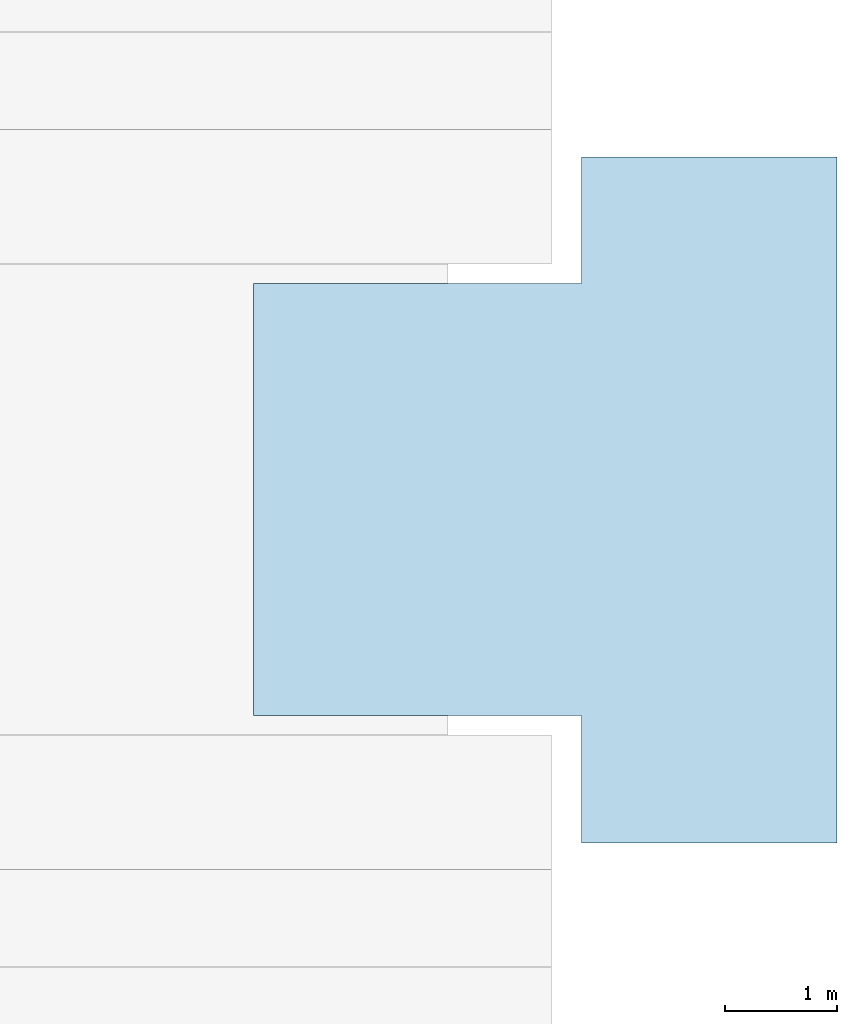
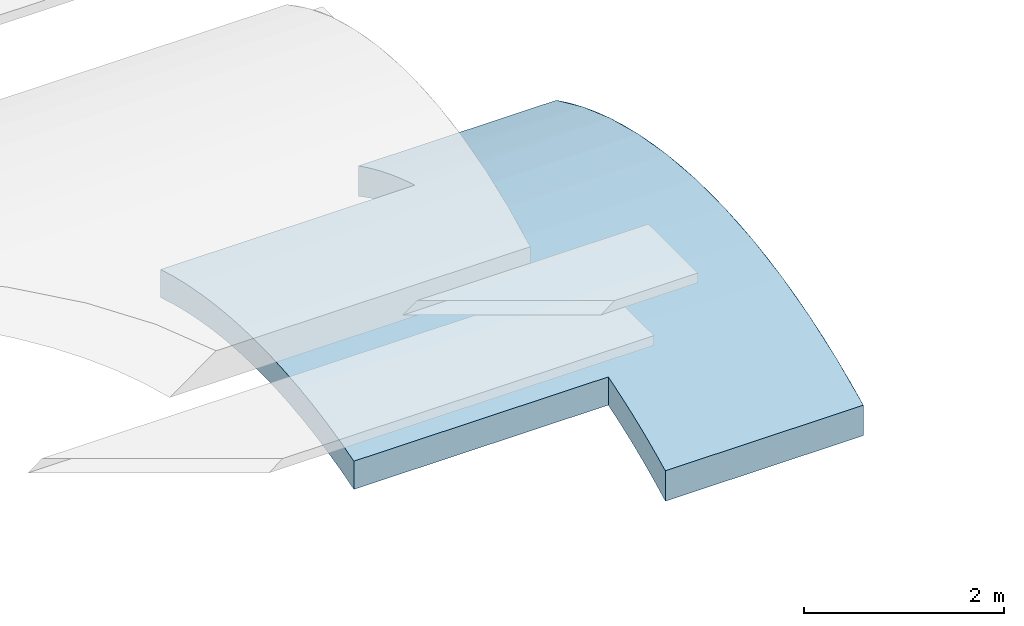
# One storey, part 5 of 5: 1 roof.
"""IFC2X3 building model written with IfcOpenShell, lengths in metres."""

import ifcopenshell
import ifcopenshell.guid

model = None  # the IFC model being written
_history = None  # IfcOwnerHistory: only IFC2X3 demands one
_inside = {}  # id of a spatial element -> (the spatial element, [elements in it])
_under = {}  # id of a project, library or spatial element -> (it, [spatial elements below it])
_declared = {}  # id of a project -> (the project, [libraries it declares])
_typed = {}  # id of a type object -> (the type object, [elements of that type])
_made_of = {}  # id of a material, layer set ... -> (it, [elements and type objects made of it])


def new_model(schema):
    """Start an empty IFC model of exactly this schema.

    Asked for "IFC4X3", IfcOpenShell would pick the latest addendum, in which some entities
    have other attributes; the version numbers below select the first issue.
    IFC2X3 requires an IfcOwnerHistory on every rooted entity: one is made here for all.
    """
    global model, _history
    if schema == "IFC4X3":
        model = ifcopenshell.file(schema_version=(4, 3, 0, 0))
    else:
        model = ifcopenshell.file(schema=schema)
    _inside.clear()
    _under.clear()
    _declared.clear()
    _typed.clear()
    _made_of.clear()
    _history = None
    if model.schema == "IFC2X3":
        org = make("IfcOrganization", Name="unknown")
        user = make(
            "IfcPersonAndOrganization",
            ThePerson=make("IfcPerson", FamilyName="unknown"),
            TheOrganization=org,
        )
        app = make(
            "IfcApplication",
            ApplicationDeveloper=org,
            Version="unknown",
            ApplicationFullName="unknown",
            ApplicationIdentifier="unknown",
        )
        _history = make(
            "IfcOwnerHistory",
            OwningUser=user,
            OwningApplication=app,
            ChangeAction="ADDED",
            CreationDate=0,
        )
    return model


def make(cls, **values):
    """One entity of the class cls with the attributes given. An attribute that is None is left unset."""
    return model.create_entity(
        cls, **{name: value for name, value in values.items() if value is not None}
    )


def entity(cls, *values):
    """Any entity or typed value of the class cls, its attributes in the order of the schema. None: left unset."""
    e = model.create_entity(cls)
    for i, value in enumerate(values):
        if value is not None:
            e[i] = value
    return e


def rooted(cls, **values):
    """An entity with a GlobalId (a new one), such as an element, a storey or a relation."""
    return make(cls, GlobalId=ifcopenshell.guid.new(), OwnerHistory=_history, **values)


def si_unit(unit_type, name, prefix=None):
    """IfcSIUnit, for example si_unit("LENGTHUNIT", "METRE", prefix="MILLI")."""
    return make("IfcSIUnit", UnitType=unit_type, Prefix=prefix, Name=name)


def converted_unit(unit_type, name, factor, base, dimensions=None, offset=None):
    """IfcConversionBasedUnit, such as the inch: factor (a typed value) times the base unit."""
    return make(
        "IfcConversionBasedUnit"
        if offset is None
        else "IfcConversionBasedUnitWithOffset",
        ConversionOffset=offset,
        Dimensions=None
        if dimensions is None
        else entity("IfcDimensionalExponents", *dimensions),
        UnitType=unit_type,
        Name=name,
        ConversionFactor=make(
            "IfcMeasureWithUnit", ValueComponent=factor, UnitComponent=base
        ),
    )


def assignment(units):
    """IfcUnitAssignment: the units of a project."""
    return None if units is None else make("IfcUnitAssignment", Units=units)


def point(xyz):
    """IfcCartesianPoint."""
    return None if xyz is None else make("IfcCartesianPoint", Coordinates=xyz)


def direction(xyz):
    """IfcDirection."""
    return None if xyz is None else make("IfcDirection", DirectionRatios=xyz)


def frame(location, z_axis=None, x_axis=None):
    """IfcAxis2Placement3D, a coordinate frame: its origin and axes. An axis left out is left unset."""
    return make(
        "IfcAxis2Placement3D",
        Location=point(location),
        Axis=direction(z_axis),
        RefDirection=direction(x_axis),
    )


def origin():
    """The frame at (0, 0, 0) with its axes left unset."""
    return frame((0.0, 0.0, 0.0))


def place(relative_to, where):
    """IfcLocalPlacement: puts the frame where relative to a parent placement (None: the world)."""
    return make(
        "IfcLocalPlacement", PlacementRelTo=relative_to, RelativePlacement=where
    )


def context(
    kind, dimensions, precision=None, world=None, true_north=None, identifier=None
):
    """IfcGeometricRepresentationContext, for example the 3D "Model" context."""
    return make(
        "IfcGeometricRepresentationContext",
        ContextIdentifier=identifier,
        ContextType=kind,
        CoordinateSpaceDimension=dimensions,
        Precision=precision,
        WorldCoordinateSystem=world,
        TrueNorth=true_north,
    )


def project(units=None, contexts=None):
    """IfcProject with its units and contexts."""
    return rooted(
        "IfcProject",
        Name="project",
        RepresentationContexts=contexts,
        UnitsInContext=assignment(units),
    )


def spatial(cls, under=None, at=None, **own):
    """A site, building, storey or space (cls), placed at a placement, below another one or the project."""
    s = rooted(cls, ObjectPlacement=at, **own)
    if under is not None:
        _under.setdefault(under.id(), (under, []))[1].append(s)
    return s


def faces_of(points, faces, orient=None, outer=None):
    """IfcFace entities. A face is a list of loops; a loop is a list of indices into points, from 0.

    orient and outer hold one flag for each loop. By default every Orientation is true, the
    first loop of a face is its IfcFaceOuterBound and the others are IfcFaceBound.
    """
    made = []
    for i, loops in enumerate(faces):
        bounds = []
        for j, loop in enumerate(loops):
            is_outer = j == 0 if outer is None else outer[i][j]
            bounds.append(
                make(
                    "IfcFaceOuterBound" if is_outer else "IfcFaceBound",
                    Bound=make("IfcPolyLoop", Polygon=[points[k] for k in loop]),
                    Orientation=True if orient is None else orient[i][j],
                )
            )
        made.append(make("IfcFace", Bounds=bounds))
    return made


def face_set(faces, orient=None, outer=None):
    """The faces of one IfcConnectedFaceSet. surface_model builds it on its shared points."""
    return ("IfcConnectedFaceSet", faces, orient, outer)


def surface_model(cls, points, shells):
    """IfcFaceBasedSurfaceModel or IfcShellBasedSurfaceModel (cls): surfaces that need not close."""
    shared = [point(p) for p in points]
    made = [make(c, CfsFaces=faces_of(shared, fs, o, b)) for c, fs, o, b in shells]
    if cls == "IfcFaceBasedSurfaceModel":
        return make(cls, FbsmFaces=made)
    return make(cls, SbsmBoundary=made)


def shape(context_of_items, identifier, shape_type, items):
    """IfcShapeRepresentation: the items that make up one representation, for example the "Body"."""
    return make(
        "IfcShapeRepresentation",
        ContextOfItems=context_of_items,
        RepresentationIdentifier=identifier,
        RepresentationType=shape_type,
        Items=items,
    )


def material(Name=None, Category=None):
    """IfcMaterial."""
    return make("IfcMaterial", Name=Name, Category=Category)


def layer(
    of_material, thickness, ventilated=None, Name=None, Category=None, Priority=None
):
    """IfcMaterialLayer: one layer of a wall or slab, of a material (None: an air gap)."""
    return make(
        "IfcMaterialLayer",
        Material=of_material,
        LayerThickness=thickness,
        IsVentilated=ventilated,
        Name=Name,
        Category=Category,
        Priority=Priority,
    )


def layer_set(layers, Name=None):
    """IfcMaterialLayerSet."""
    return make("IfcMaterialLayerSet", MaterialLayers=layers, LayerSetName=Name)


def layer_usage(for_layer_set, set_direction, sense, offset, extent=None):
    """IfcMaterialLayerSetUsage: how a layer set lies in its element."""
    return make(
        "IfcMaterialLayerSetUsage",
        ForLayerSet=for_layer_set,
        LayerSetDirection=set_direction,
        DirectionSense=sense,
        OffsetFromReferenceLine=offset,
        ReferenceExtent=extent,
    )


def made_of(thing, what):
    """Note that an element or type object is made of a material, layer set ...; save() writes the relation."""
    if what is not None:
        _made_of.setdefault(what.id(), (what, []))[1].append(thing)
    return thing


def element(
    cls,
    number,
    at=None,
    inside=None,
    cuts=None,
    type_object=None,
    material=None,
    context=None,
    identifier="Body",
    shape_type=None,
    held_by="IfcProductDefinitionShape",
    body=None,
    shapes=None,
    **own,
):
    """One element of the class cls, such as IfcWall. Its Tag is "e" and its number.

    at: its placement. inside: the storey or other place that contains it. cuts: it is an
    opening in that element (IfcRelVoidsElement). A single representation is given by context,
    identifier, shape_type and body (its items); several are given by shapes. held_by: the class
    of the entity that holds the representations. save() writes the other relations.
    """
    e = rooted(cls, Tag="e%d" % number, ObjectPlacement=at, **own)
    if body is not None:
        shapes = [shape(context, identifier, shape_type, body)]
    if shapes is not None:
        e.Representation = make(held_by, Representations=shapes)
    if inside is not None:
        _inside.setdefault(inside.id(), (inside, []))[1].append(e)
    if cuts is not None:
        rooted(
            "IfcRelVoidsElement", RelatingBuildingElement=cuts, RelatedOpeningElement=e
        )
    if type_object is not None:
        _typed.setdefault(type_object.id(), (type_object, []))[1].append(e)
    return made_of(e, material)


def aggregate(whole, parts):
    """IfcRelAggregates: a whole, such as a stair, and the parts it consists of."""
    return rooted("IfcRelAggregates", RelatingObject=whole, RelatedObjects=parts)


def save(model, path):
    """Write the relations noted so far, then the file.

    IfcRelAggregates (storeys below a building ...), IfcRelContainedInSpatialStructure (elements
    in a storey), IfcRelDefinesByType, IfcRelAssociatesMaterial and IfcRelDeclares: one each for
    every whole, place, type object, material and project.
    """
    for whole, parts in _under.values():
        aggregate(whole, parts)
    for where, things in _inside.values():
        rooted(
            "IfcRelContainedInSpatialStructure",
            RelatedElements=things,
            RelatingStructure=where,
        )
    for kind, things in _typed.values():
        rooted("IfcRelDefinesByType", RelatedObjects=things, RelatingType=kind)
    for what, things in _made_of.values():
        rooted("IfcRelAssociatesMaterial", RelatedObjects=things, RelatingMaterial=what)
    for by, libraries in _declared.values():
        rooted("IfcRelDeclares", RelatingContext=by, RelatedDefinitions=libraries)
    model.write(path)


model = new_model("IFC2X3")

# Units and contexts
model_context = context("Model", 3, precision=1e-09, world=origin())
plan_context = context("Plan", 3, precision=1e-09, world=origin())
ifc_project = project(units=[si_unit("LENGTHUNIT", "METRE"), si_unit("AREAUNIT", "SQUARE_METRE"), si_unit("VOLUMEUNIT", "CUBIC_METRE"), converted_unit("PLANEANGLEUNIT", "DEGREE", entity("IfcRatioMeasure", 0.01745329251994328), si_unit("PLANEANGLEUNIT", "RADIAN"), dimensions=[0, 0, 0, 0, 0, 0, 0]), si_unit("TIMEUNIT", "SECOND")], contexts=[model_context, plan_context])

# Site, building, storey
site_placement = place(None, origin())
site = spatial("IfcSite", under=ifc_project, at=site_placement, Name="Default", CompositionType="ELEMENT")
building_placement = place(site_placement, origin())
building = spatial("IfcBuilding", under=site, at=building_placement, CompositionType="ELEMENT")
storey_placement = place(building_placement, frame((0.0, 0.0, 9.25000000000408)))
storey = spatial("IfcBuildingStorey", under=building, at=storey_placement, Name="Roof - Main", CompositionType="ELEMENT", Elevation=9.25000000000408)

# Roof
ifc_material_1 = material(Name="Roofing - Metal")
ifc_layer_1 = layer(ifc_material_1, 0.006)
ifc_material_2 = material(Name="Metal - Decking")
ifc_layer_2 = layer(ifc_material_2, 0.038)
ifc_material_3 = material(Name="Structure - Steel Bar Joist Layer")
ifc_layer_3 = layer(ifc_material_3, 0.286)
ifc_layer_set = layer_set([ifc_layer_1, ifc_layer_2, ifc_layer_3], Name="Basic Roof:Standing Seam Metal Roof")
ifc_layer_usage = layer_usage(ifc_layer_set, "AXIS3", "NEGATIVE", 0.0)
roof_placement = place(storey_placement, frame((-2.560000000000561, 28.61578743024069, -4.752085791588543)))
element("IfcRoof", 1, at=roof_placement, inside=storey, material=ifc_layer_usage, Name="Basic Roof:Standing Seam Metal Roof", ObjectType="Basic Roof:Standing Seam Metal Roof", ShapeType="NOTDEFINED", context=model_context, shape_type="SurfaceModel", body=[
    surface_model("IfcFaceBasedSurfaceModel", [(5.229500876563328, 6.146929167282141, 0.373890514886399), (5.229500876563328, 5.885628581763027, 0.4992073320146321), (5.229500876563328, 5.619229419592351, 0.6132853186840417), (5.229500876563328, 5.348214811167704, 0.7159175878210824), (5.229500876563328, 5.073076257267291, 0.8069180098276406), (5.229500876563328, 4.794312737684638, 0.8861215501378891), (5.229500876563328, 4.512429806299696, 0.953384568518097), (5.229500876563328, 4.227938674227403, 1.008585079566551), (5.229500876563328, 3.941355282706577, 1.051622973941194), (5.229500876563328, 3.6531993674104, 1.082420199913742), (5.229500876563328, 3.363993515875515, 1.100920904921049), (5.229500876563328, 3.074262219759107, 1.107091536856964), (5.229500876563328, 2.784530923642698, 1.100920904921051), (5.229500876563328, 2.495325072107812, 1.082420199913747), (5.229500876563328, 2.207169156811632, 1.051622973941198), (5.229500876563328, 1.920585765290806, 1.008585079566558), (5.229500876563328, 1.636094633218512, 0.9533845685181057), (5.229500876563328, 1.354211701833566, 0.8861215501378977), (5.229500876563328, 1.075448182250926, 0.8069180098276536), (5.229500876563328, 0.800309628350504, 0.7159175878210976), (5.229500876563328, 0.5292950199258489, 0.6132853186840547), (5.229500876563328, 0.2628958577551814, 0.4992073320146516), (5.229500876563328, 0.00159527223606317, 0.3738905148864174), (5.229500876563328, 0.001595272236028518, 0.001595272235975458), (5.229500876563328, 0.2494107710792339, 0.1283973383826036), (5.229500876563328, 0.5024474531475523, 0.2444306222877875), (5.229500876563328, 0.7602376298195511, 0.3494806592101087), (5.229500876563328, 1.022304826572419, 0.4433532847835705), (5.229500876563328, 1.28816466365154, 0.5258749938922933), (5.229500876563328, 1.557325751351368, 0.5968932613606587), (5.229500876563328, 1.829290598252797, 0.6562768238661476), (5.229500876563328, 2.103556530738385, 0.7039159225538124), (5.229500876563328, 2.379616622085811, 0.7397225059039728), (5.229500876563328, 2.656960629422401, 0.7636303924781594), (5.229500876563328, 2.93507593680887, 0.7755953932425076), (5.229500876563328, 3.213448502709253, 0.7755953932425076), (5.229500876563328, 3.491563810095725, 0.7636303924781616), (5.229500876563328, 3.76890781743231, 0.7397225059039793), (5.229500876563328, 4.044967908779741, 0.7039159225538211), (5.229500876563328, 4.319233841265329, 0.6562768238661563), (5.229500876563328, 4.591198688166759, 0.5968932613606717), (5.229500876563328, 4.860359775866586, 0.5258749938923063), (5.229500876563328, 5.126219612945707, 0.4433532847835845), (5.229500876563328, 5.388286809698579, 0.3494806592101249), (5.229500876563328, 5.646076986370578, 0.2444306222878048), (5.229500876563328, 5.899113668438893, 0.1283973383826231), (5.229500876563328, 6.146929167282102, 0.001595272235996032), (0.0, 5.014212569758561, 0.4796491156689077), (0.0, 5.014212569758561, 0.8247150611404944), (0.0, 4.743975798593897, 0.8990667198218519), (0.0, 4.470909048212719, 0.9622268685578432), (0.0, 4.195473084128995, 1.014089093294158), (0.0, 3.918135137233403, 1.054565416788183), (0.0, 3.639365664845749, 1.083587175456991), (0.0, 3.35963755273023, 1.101105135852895), (0.0, 3.079425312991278, 1.107089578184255), (0.0, 2.799204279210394, 1.101530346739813), (0.0, 2.519449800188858, 1.084436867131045), (0.0, 2.240636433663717, 1.055838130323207), (0.0, 1.963237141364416, 1.015782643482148), (0.0, 1.687722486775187, 0.9643383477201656), (0.0, 1.414559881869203, 0.9015925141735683), (0.0, 1.144212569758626, 0.8276515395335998), (0.0, 1.144212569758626, 0.4827495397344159), (0.0, 1.395818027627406, 0.5557664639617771), (0.0, 1.650170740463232, 0.6185453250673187), (0.0, 1.906854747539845, 0.6709834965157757), (0.0, 2.165449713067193, 0.7129951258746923), (0.0, 2.42553231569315, 0.7445114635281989), (0.0, 2.686676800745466, 0.7654809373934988), (0.0, 2.948455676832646, 0.7758692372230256), (0.0, 3.210440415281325, 0.7756593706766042), (0.0, 3.472202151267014, 0.7648516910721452), (0.0, 3.733312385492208, 0.7434638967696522), (0.0, 3.99334368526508, 0.7115310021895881), (0.0, 4.251870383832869, 0.6691052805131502), (0.0, 4.508469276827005, 0.616256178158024), (0.0, 4.762720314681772, 0.5530702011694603), (2.940000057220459, 5.476864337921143, 0.6688430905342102), (2.940000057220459, 5.246936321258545, 0.7509293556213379), (2.940000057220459, 5.703699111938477, 0.5785619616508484), (2.940000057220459, 5.014213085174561, 0.8247149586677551), (2.940000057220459, 6.14693021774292, 0.3738904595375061), (2.940000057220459, 5.927150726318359, 0.4802022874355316), (2.940000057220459, 1.144212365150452, 0.8276514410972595), (2.940000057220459, 0.4486361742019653, 0.5801572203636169), (2.940000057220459, 0.2232499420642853, 0.4810679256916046), (2.940000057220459, 0.6774570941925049, 0.6710284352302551), (2.940000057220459, 0.001596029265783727, 0.3738904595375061), (2.940000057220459, 0.9094173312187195, 0.753562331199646), (2.939999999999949, 0.001595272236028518, 0.0015952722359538), (2.940000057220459, 0.22239650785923, 0.1152225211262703), (2.940000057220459, 0.676252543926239, 0.316672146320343), (2.940000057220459, 0.4473944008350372, 0.2202995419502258), (2.940000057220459, 0.9086406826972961, 0.4041981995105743), (2.940000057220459, 1.144212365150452, 0.4827497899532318), (2.940000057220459, 5.014213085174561, 0.4796488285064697), (2.940000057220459, 5.247703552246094, 0.4014175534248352), (2.940000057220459, 5.478052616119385, 0.3143638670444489), (2.940000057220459, 5.704924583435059, 0.2186147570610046), (2.940000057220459, 5.927989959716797, 0.1143080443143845), (2.940000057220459, 6.14693021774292, 0.001595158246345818)], [face_set([[[0, 1, 2, 3, 4, 5, 6, 7, 8, 9, 10, 11, 12, 13, 14, 15, 16, 17, 18, 19, 20, 21, 22, 23, 24, 25, 26, 27, 28, 29, 30, 31, 32, 33, 34, 35, 36, 37, 38, 39, 40, 41, 42, 43, 44, 45, 46]], [[47, 48, 49, 50, 51, 52, 53, 54, 55, 56, 57, 58, 59, 60, 61, 62, 63, 64, 65, 66, 67, 68, 69, 70, 71, 72, 73, 74, 75, 76, 77]], [[2, 78, 79]], [[2, 80, 78]], [[79, 81, 4]], [[50, 52, 8]], [[81, 50, 6]], [[48, 50, 81]], [[10, 52, 54]], [[82, 83, 0]], [[2, 0, 83]], [[80, 2, 83]], [[6, 50, 8]], [[2, 79, 4]], [[4, 81, 6]], [[52, 10, 8]], [[54, 56, 10]], [[60, 14, 58]], [[58, 12, 56]], [[84, 60, 62]], [[20, 85, 86]], [[20, 87, 85]], [[86, 88, 22]], [[16, 84, 18]], [[16, 14, 60]], [[12, 58, 14]], [[60, 84, 16]], [[87, 20, 89]], [[20, 86, 22]], [[20, 18, 89]], [[89, 18, 84]], [[56, 12, 10]], [[23, 22, 88, 90]], [[91, 23, 24]], [[90, 23, 91]], [[26, 92, 25]], [[24, 25, 93]], [[27, 94, 26]], [[64, 28, 29]], [[95, 27, 28]], [[66, 30, 31]], [[68, 32, 33]], [[67, 31, 32]], [[65, 29, 30]], [[69, 33, 34]], [[24, 93, 91]], [[25, 92, 93]], [[92, 26, 94]], [[63, 95, 64]], [[27, 95, 94]], [[28, 64, 95]], [[65, 64, 29]], [[66, 65, 30]], [[67, 66, 31]], [[67, 32, 68]], [[69, 68, 33]], [[34, 70, 69]], [[34, 35, 70]], [[73, 36, 37]], [[72, 35, 36]], [[76, 39, 40]], [[75, 38, 39]], [[74, 37, 38]], [[96, 42, 97]], [[41, 42, 96]], [[44, 98, 43]], [[42, 43, 97]], [[99, 44, 45]], [[100, 45, 46]], [[40, 41, 77]], [[41, 96, 77]], [[36, 73, 72]], [[73, 37, 74]], [[38, 75, 74]], [[75, 39, 76]], [[71, 35, 72]], [[43, 98, 97]], [[44, 99, 98]], [[96, 47, 77]], [[99, 45, 100]], [[46, 101, 100]], [[77, 76, 40]], [[35, 71, 70]], [[0, 82, 101, 46]], [[95, 84, 62, 63]], [[84, 89, 87, 85, 86, 88, 90, 91, 93, 92, 94, 95]], [[81, 48, 47, 96]], [[96, 97, 98, 99, 100, 101, 82, 83, 80, 78, 79, 81]]])]),
])

save(model, "model.ifc")
